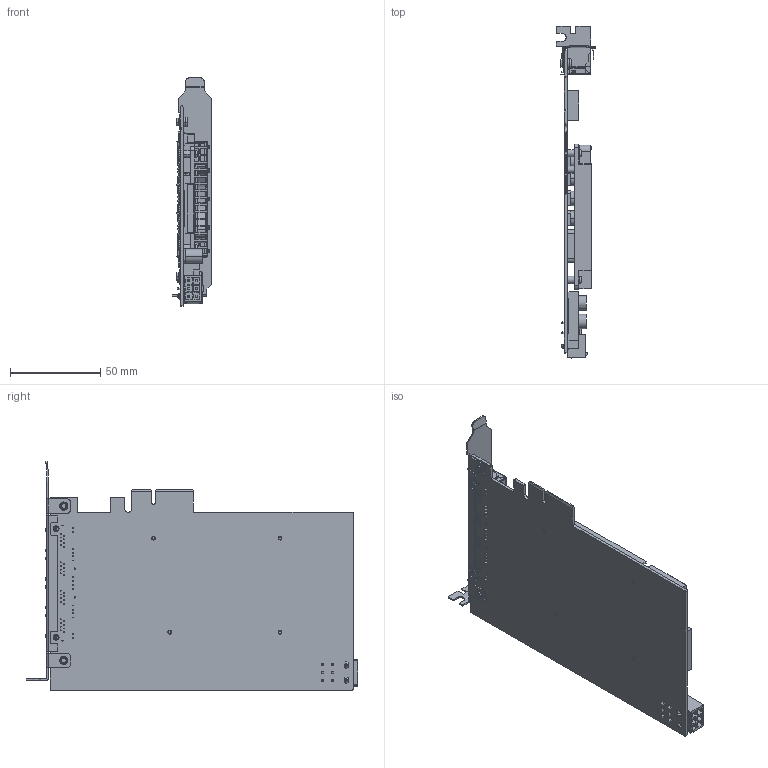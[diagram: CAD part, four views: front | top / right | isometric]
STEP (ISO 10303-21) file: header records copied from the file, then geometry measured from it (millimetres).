
FILE_DESCRIPTION((''),'2;1');
FILE_NAME('0001_ASM009-008','2021-07-06T11:02:03',('gengdawei'),(''),'CREO PARAMETRIC BY PTC INC, 2017260','CREO PARAMETRIC BY PTC INC, 2017260','');
FILE_SCHEMA(('CONFIG_CONTROL_DESIGN'));
Products named in the file (1): 0001_ASM009-008
Bounding box: 21.59 x 183.58 x 126.31 mm (x, y, z)
Volume: 65519.8 mm3; surface area: 92215.6 mm2
Topology: 1 solids, 141 shells, 5123 faces, 13965 edges, 9071 vertices
Faces by surface type: plane 4012, cylinder 961, torus 64, cone 46, revolution 16, bspline 14, extrusion 10
Entity records: 163270 total; most frequent: CARTESIAN_POINT 34551, ORIENTED_EDGE 27190, DIRECTION 24895, EDGE_CURVE 13957, VECTOR 11109, LINE 11099, VERTEX_POINT 9071, AXIS2_PLACEMENT_3D 6885
